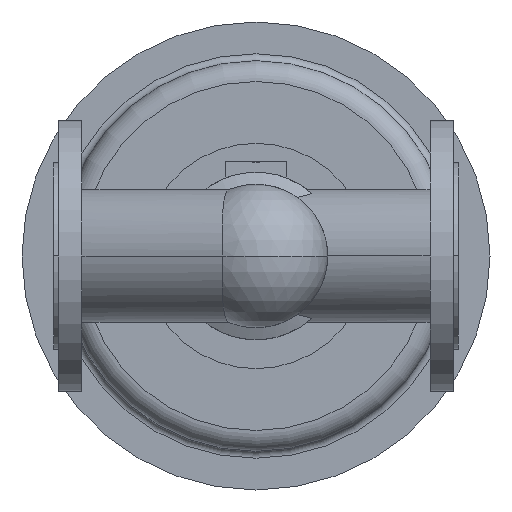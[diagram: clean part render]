
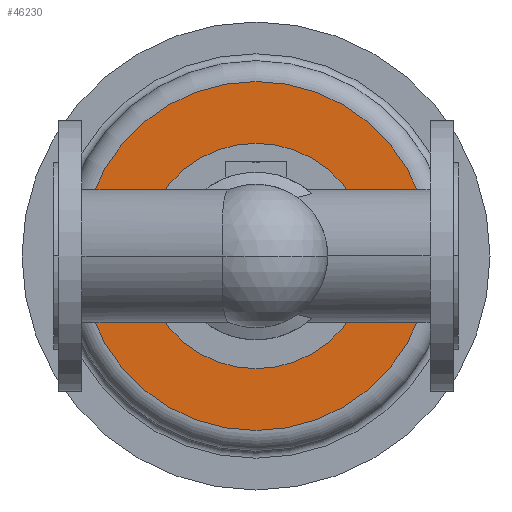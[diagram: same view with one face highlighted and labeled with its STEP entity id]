
A CAD part, front view. The second image highlights one B-rep face of the part: STEP entity #46230.
In plain terms, the highlighted planar face has unit normal (0, -1, 0).
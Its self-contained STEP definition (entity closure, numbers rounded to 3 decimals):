
#35150=CARTESIAN_POINT('',(24.,486.,0.));
#35160=VERTEX_POINT('',#35150);
#35250=CARTESIAN_POINT('',(326.,486.,0.));
#35260=VERTEX_POINT('',#35250);
#35290=CARTESIAN_POINT('',(175.,486.,0.));
#35300=DIRECTION('',(0.,1.,0.));
#35310=DIRECTION('',(1.,0.,0.));
#35320=AXIS2_PLACEMENT_3D('',#35290,#35300,#35310);
#35330=CIRCLE('',#35320,151.);
#35340=CARTESIAN_POINT('',(175.,486.,151.));
#35350=VERTEX_POINT('',#35340);
#35360=EDGE_CURVE('',#35350,#35260,#35330,.T.);
#35380=EDGE_CURVE('',#35160,#35350,#35330,.T.);
#35520=CARTESIAN_POINT('',(270.,486.,0.));
#35530=VERTEX_POINT('',#35520);
#35710=CARTESIAN_POINT('',(80.,486.,0.));
#35720=VERTEX_POINT('',#35710);
#35750=CARTESIAN_POINT('',(175.,486.,0.));
#35760=DIRECTION('',(0.,1.,0.));
#35770=DIRECTION('',(1.,0.,0.));
#35780=AXIS2_PLACEMENT_3D('',#35750,#35760,#35770);
#35790=CIRCLE('',#35780,95.);
#35800=EDGE_CURVE('',#35720,#35530,#35790,.T.);
#46070=CARTESIAN_POINT('',(298.,486.,0.));
#46080=DIRECTION('',(0.,-1.,0.));
#46090=DIRECTION('',(-1.,0.,0.));
#46100=AXIS2_PLACEMENT_3D('',#46070,#46080,#46090);
#46110=PLANE('',#46100);
#46120=ORIENTED_EDGE('',*,*,#35360,.F.);
#46130=EDGE_CURVE('',#35260,#35160,#35330,.T.);
#46140=ORIENTED_EDGE('',*,*,#46130,.F.);
#46150=ORIENTED_EDGE('',*,*,#35380,.F.);
#46160=EDGE_LOOP('',(#46150,#46140,#46120));
#46170=FACE_OUTER_BOUND('',#46160,.T.);
#46180=EDGE_CURVE('',#35530,#35720,#35790,.T.);
#46190=ORIENTED_EDGE('',*,*,#46180,.T.);
#46200=ORIENTED_EDGE('',*,*,#35800,.T.);
#46210=EDGE_LOOP('',(#46200,#46190));
#46220=FACE_BOUND('',#46210,.T.);
#46230=ADVANCED_FACE('',(#46170,#46220),#46110,.T.);
